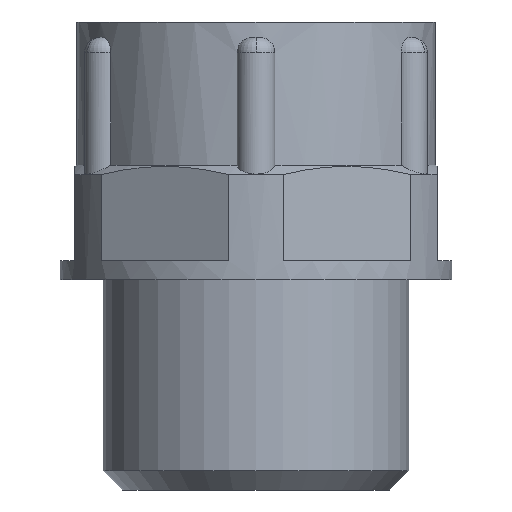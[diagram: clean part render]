
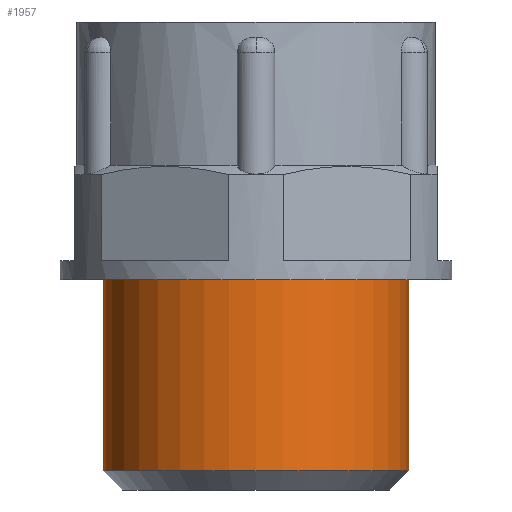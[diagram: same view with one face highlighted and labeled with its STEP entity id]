
A CAD part, front view. The second image highlights one B-rep face of the part: STEP entity #1957.
In plain terms, the highlighted cylindrical face has radius 8 mm (diameter 16 mm), a partial arc.
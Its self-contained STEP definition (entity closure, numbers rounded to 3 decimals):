
#47 = DIRECTION ( 'NONE',  ( -1., 0., 0. ) ) ;
#48 = DIRECTION ( 'NONE',  ( 0., 0., -1. ) ) ;
#49 = AXIS2_PLACEMENT_3D ( 'NONE', #52, #48, #47 ) ;
#50 = CYLINDRICAL_SURFACE ( 'NONE', #49, 8. ) ;
#52 = CARTESIAN_POINT ( 'NONE',  ( 0., 0., 0. ) ) ;
#53 = DIRECTION ( 'NONE',  ( -1., 0., 0. ) ) ;
#54 = DIRECTION ( 'NONE',  ( 0., 0., -1. ) ) ;
#55 = AXIS2_PLACEMENT_3D ( 'NONE', #62, #54, #53 ) ;
#56 = CIRCLE ( 'NONE', #55, 8. ) ;
#57 = FACE_OUTER_BOUND ( 'NONE', #1958, .T. ) ;
#62 = CARTESIAN_POINT ( 'NONE',  ( 0., 0., 1. ) ) ;
#222 = DIRECTION ( 'NONE',  ( -1., 0., 0. ) ) ;
#223 = DIRECTION ( 'NONE',  ( 0., 0., -1. ) ) ;
#224 = CARTESIAN_POINT ( 'NONE',  ( 0., 0., 11. ) ) ;
#225 = AXIS2_PLACEMENT_3D ( 'NONE', #224, #223, #222 ) ;
#226 = CIRCLE ( 'NONE', #225, 8. ) ;
#666 = LINE ( 'NONE', #731, #730 ) ;
#700 = CARTESIAN_POINT ( 'NONE',  ( -8., 0., 1. ) ) ;
#729 = DIRECTION ( 'NONE',  ( 0., 0., -1. ) ) ;
#730 = VECTOR ( 'NONE', #729, 1000. ) ;
#731 = CARTESIAN_POINT ( 'NONE',  ( 8., 0., 0. ) ) ;
#909 = CARTESIAN_POINT ( 'NONE',  ( 8., 0., 1. ) ) ;
#923 = CARTESIAN_POINT ( 'NONE',  ( -8., 0., 11. ) ) ;
#1040 = DIRECTION ( 'NONE',  ( 0., 0., -1. ) ) ;
#1041 = VECTOR ( 'NONE', #1040, 1000. ) ;
#1042 = CARTESIAN_POINT ( 'NONE',  ( -8., 0., 0. ) ) ;
#1043 = LINE ( 'NONE', #1042, #1041 ) ;
#1044 = CARTESIAN_POINT ( 'NONE',  ( 8., 0., 11. ) ) ;
#1950 = ORIENTED_EDGE ( 'NONE', *, *, #1956, .F. ) ;
#1956 = EDGE_CURVE ( 'NONE', #2403, #2314, #56, .T. ) ;
#1957 = ADVANCED_FACE ( 'NONE', ( #57 ), #50, .T. ) ;
#1958 = EDGE_LOOP ( 'NONE', ( #1959, #1960, #1994, #1950 ) ) ;
#1959 = ORIENTED_EDGE ( 'NONE', *, *, #2328, .F. ) ;
#1960 = ORIENTED_EDGE ( 'NONE', *, *, #1993, .T. ) ;
#1993 = EDGE_CURVE ( 'NONE', #2477, #2402, #226, .T. ) ;
#1994 = ORIENTED_EDGE ( 'NONE', *, *, #2478, .T. ) ;
#2314 = VERTEX_POINT ( 'NONE', #700 ) ;
#2328 = EDGE_CURVE ( 'NONE', #2477, #2403, #666, .T. ) ;
#2402 = VERTEX_POINT ( 'NONE', #923 ) ;
#2403 = VERTEX_POINT ( 'NONE', #909 ) ;
#2477 = VERTEX_POINT ( 'NONE', #1044 ) ;
#2478 = EDGE_CURVE ( 'NONE', #2402, #2314, #1043, .T. ) ;
